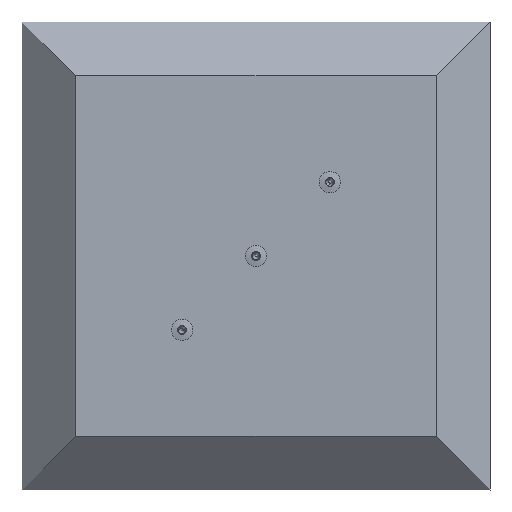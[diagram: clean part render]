
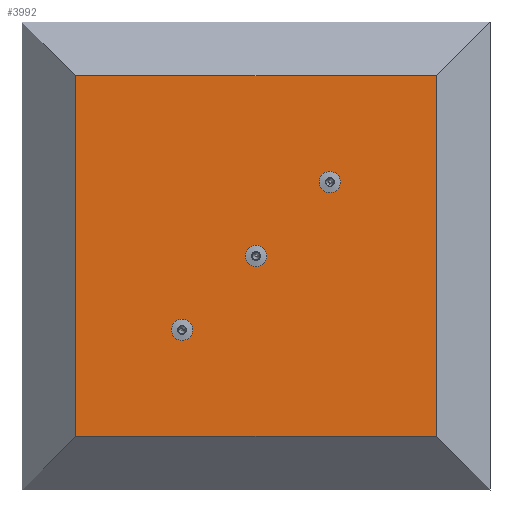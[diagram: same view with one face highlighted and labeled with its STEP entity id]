
A CAD part, front view. The second image highlights one B-rep face of the part: STEP entity #3992.
In plain terms, the highlighted planar face has unit normal (0, -1, 0) as drawn and (0, 1, 0) by its records, which use the part's own axes.
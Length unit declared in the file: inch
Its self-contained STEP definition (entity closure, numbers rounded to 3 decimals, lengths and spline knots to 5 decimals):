
#123 = VECTOR ( 'NONE', #1939, 39.37008 ) ;
#204 = AXIS2_PLACEMENT_3D ( 'NONE', #6416, #7996, #1803 ) ;
#429 = CARTESIAN_POINT ( 'NONE',  ( 13.03899, 0.475, -13.03899 ) ) ;
#538 = DIRECTION ( 'NONE',  ( 0., 0., -1. ) ) ;
#693 = CIRCLE ( 'NONE', #9636, 0.5 ) ;
#715 = ORIENTED_EDGE ( 'NONE', *, *, #2956, .F. ) ;
#1020 = CARTESIAN_POINT ( 'NONE',  ( 5.46101, 0.475, -5.46101 ) ) ;
#1029 = EDGE_LOOP ( 'NONE', ( #5677, #8766 ) ) ;
#1373 = EDGE_CURVE ( 'NONE', #4400, #2816, #5370, .T. ) ;
#1450 = DIRECTION ( 'NONE',  ( 0., 1., 0. ) ) ;
#1576 = DIRECTION ( 'NONE',  ( 0., 0., 1. ) ) ;
#1584 = CARTESIAN_POINT ( 'NONE',  ( 0., 0.475, -18.5 ) ) ;
#1779 = DIRECTION ( 'NONE',  ( 0., 0., -1. ) ) ;
#1803 = DIRECTION ( 'NONE',  ( 0., 0., -1. ) ) ;
#1879 = DIRECTION ( 'NONE',  ( 0., 0., 1. ) ) ;
#1939 = DIRECTION ( 'NONE',  ( 1., 0., 0. ) ) ;
#2089 = CARTESIAN_POINT ( 'NONE',  ( 5.46101, 0.475, -5.46101 ) ) ;
#2343 = AXIS2_PLACEMENT_3D ( 'NONE', #2089, #5761, #538 ) ;
#2400 = EDGE_CURVE ( 'NONE', #5126, #7201, #4242, .T. ) ;
#2429 = CARTESIAN_POINT ( 'NONE',  ( 9.25, 0.475, -9.25 ) ) ;
#2439 = VERTEX_POINT ( 'NONE', #7031 ) ;
#2506 = VERTEX_POINT ( 'NONE', #7925 ) ;
#2520 = CARTESIAN_POINT ( 'NONE',  ( 9.25, 0.475, -8.75 ) ) ;
#2525 = DIRECTION ( 'NONE',  ( 0., 1., 0. ) ) ;
#2536 = VERTEX_POINT ( 'NONE', #6652 ) ;
#2576 = CARTESIAN_POINT ( 'NONE',  ( 18.5, 0.475, -18.5 ) ) ;
#2646 = VERTEX_POINT ( 'NONE', #6423 ) ;
#2655 = EDGE_CURVE ( 'NONE', #2506, #4400, #7115, .T. ) ;
#2668 = DIRECTION ( 'NONE',  ( 0., 0., 1. ) ) ;
#2816 = VERTEX_POINT ( 'NONE', #8388 ) ;
#2956 = EDGE_CURVE ( 'NONE', #2646, #9711, #5260, .T. ) ;
#3007 = EDGE_CURVE ( 'NONE', #2816, #2536, #8787, .T. ) ;
#3102 = CARTESIAN_POINT ( 'NONE',  ( 13.03899, 0.475, -12.53899 ) ) ;
#3349 = PLANE ( 'NONE',  #204 ) ;
#3383 = EDGE_CURVE ( 'NONE', #6469, #2439, #6964, .T. ) ;
#3482 = CARTESIAN_POINT ( 'NONE',  ( 13.03899, 0.475, -13.03899 ) ) ;
#3588 = DIRECTION ( 'NONE',  ( 0., 0., 1. ) ) ;
#3605 = AXIS2_PLACEMENT_3D ( 'NONE', #2429, #5517, #1576 ) ;
#3806 = EDGE_LOOP ( 'NONE', ( #7725, #5895 ) ) ;
#3944 = VECTOR ( 'NONE', #1879, 39.37008 ) ;
#3992 = ADVANCED_FACE ( 'NONE', ( #7852, #4161, #7110, #4212 ), #3349, .F. ) ;
#4099 = AXIS2_PLACEMENT_3D ( 'NONE', #429, #5700, #3588 ) ;
#4161 = FACE_BOUND ( 'NONE', #1029, .T. ) ;
#4212 = FACE_OUTER_BOUND ( 'NONE', #7272, .T. ) ;
#4242 = CIRCLE ( 'NONE', #3605, 0.5 ) ;
#4357 = AXIS2_PLACEMENT_3D ( 'NONE', #1020, #2525, #1779 ) ;
#4400 = VERTEX_POINT ( 'NONE', #2576 ) ;
#4749 = EDGE_CURVE ( 'NONE', #7201, #5126, #7244, .T. ) ;
#4919 = ORIENTED_EDGE ( 'NONE', *, *, #1373, .T. ) ;
#4977 = VECTOR ( 'NONE', #7693, 39.37008 ) ;
#5126 = VERTEX_POINT ( 'NONE', #2520 ) ;
#5260 = CIRCLE ( 'NONE', #2343, 0.5 ) ;
#5366 = EDGE_CURVE ( 'NONE', #2439, #6469, #693, .T. ) ;
#5370 = LINE ( 'NONE', #1584, #4977 ) ;
#5510 = AXIS2_PLACEMENT_3D ( 'NONE', #8306, #1450, #5945 ) ;
#5517 = DIRECTION ( 'NONE',  ( 0., 1., 0. ) ) ;
#5530 = CARTESIAN_POINT ( 'NONE',  ( 9.25, 0.475, -9.75 ) ) ;
#5677 = ORIENTED_EDGE ( 'NONE', *, *, #3383, .F. ) ;
#5700 = DIRECTION ( 'NONE',  ( 0., 1., 0. ) ) ;
#5761 = DIRECTION ( 'NONE',  ( 0., 1., 0. ) ) ;
#5768 = ORIENTED_EDGE ( 'NONE', *, *, #7053, .F. ) ;
#5895 = ORIENTED_EDGE ( 'NONE', *, *, #4749, .F. ) ;
#5921 = CARTESIAN_POINT ( 'NONE',  ( 0., 0.475, 0. ) ) ;
#5945 = DIRECTION ( 'NONE',  ( 0., 0., 1. ) ) ;
#6416 = CARTESIAN_POINT ( 'NONE',  ( 0., 0.475, 0. ) ) ;
#6423 = CARTESIAN_POINT ( 'NONE',  ( 5.46101, 0.475, -4.96101 ) ) ;
#6469 = VERTEX_POINT ( 'NONE', #3102 ) ;
#6652 = CARTESIAN_POINT ( 'NONE',  ( 0., 0.475, 0. ) ) ;
#6765 = ORIENTED_EDGE ( 'NONE', *, *, #7737, .T. ) ;
#6964 = CIRCLE ( 'NONE', #4099, 0.5 ) ;
#7031 = CARTESIAN_POINT ( 'NONE',  ( 13.03899, 0.475, -13.53899 ) ) ;
#7053 = EDGE_CURVE ( 'NONE', #9711, #2646, #8640, .T. ) ;
#7071 = CARTESIAN_POINT ( 'NONE',  ( 5.46101, 0.475, -5.96101 ) ) ;
#7110 = FACE_BOUND ( 'NONE', #3806, .T. ) ;
#7115 = LINE ( 'NONE', #8603, #7277 ) ;
#7201 = VERTEX_POINT ( 'NONE', #5530 ) ;
#7244 = CIRCLE ( 'NONE', #5510, 0.5 ) ;
#7272 = EDGE_LOOP ( 'NONE', ( #9101, #6765, #7500, #4919 ) ) ;
#7277 = VECTOR ( 'NONE', #9449, 39.37008 ) ;
#7399 = LINE ( 'NONE', #5921, #123 ) ;
#7500 = ORIENTED_EDGE ( 'NONE', *, *, #2655, .T. ) ;
#7528 = EDGE_LOOP ( 'NONE', ( #715, #5768 ) ) ;
#7693 = DIRECTION ( 'NONE',  ( -1., 0., 0. ) ) ;
#7725 = ORIENTED_EDGE ( 'NONE', *, *, #2400, .F. ) ;
#7737 = EDGE_CURVE ( 'NONE', #2536, #2506, #7399, .T. ) ;
#7852 = FACE_BOUND ( 'NONE', #7528, .T. ) ;
#7925 = CARTESIAN_POINT ( 'NONE',  ( 18.5, 0.475, 0. ) ) ;
#7996 = DIRECTION ( 'NONE',  ( 0., -1., 0. ) ) ;
#8306 = CARTESIAN_POINT ( 'NONE',  ( 9.25, 0.475, -9.25 ) ) ;
#8388 = CARTESIAN_POINT ( 'NONE',  ( 0., 0.475, -18.5 ) ) ;
#8603 = CARTESIAN_POINT ( 'NONE',  ( 18.5, 0.475, 0. ) ) ;
#8640 = CIRCLE ( 'NONE', #4357, 0.5 ) ;
#8677 = DIRECTION ( 'NONE',  ( 0., 1., 0. ) ) ;
#8766 = ORIENTED_EDGE ( 'NONE', *, *, #5366, .F. ) ;
#8787 = LINE ( 'NONE', #9579, #3944 ) ;
#9101 = ORIENTED_EDGE ( 'NONE', *, *, #3007, .T. ) ;
#9449 = DIRECTION ( 'NONE',  ( 0., 0., -1. ) ) ;
#9579 = CARTESIAN_POINT ( 'NONE',  ( 0., 0.475, 0. ) ) ;
#9636 = AXIS2_PLACEMENT_3D ( 'NONE', #3482, #8677, #2668 ) ;
#9711 = VERTEX_POINT ( 'NONE', #7071 ) ;
